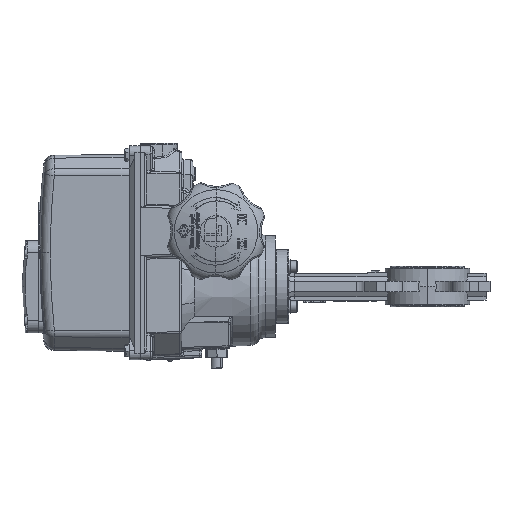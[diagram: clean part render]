
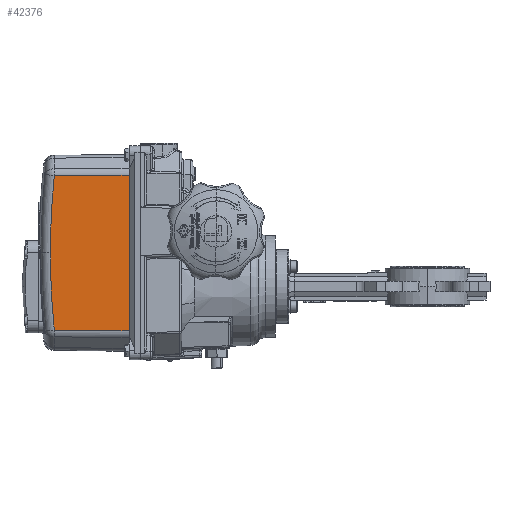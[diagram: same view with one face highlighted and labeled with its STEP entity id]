
A CAD part, left-side view. The second image highlights one B-rep face of the part: STEP entity #42376.
In plain terms, the highlighted planar face has unit normal (-1, 0.013, 0).
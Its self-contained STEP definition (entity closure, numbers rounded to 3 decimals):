
#262 = CARTESIAN_POINT ( 'NONE',  ( -65.589, -354.385, 29.913 ) ) ;
#362 = DIRECTION ( 'NONE',  ( 0.013, 1., -0.006 ) ) ;
#569 = DIRECTION ( 'NONE',  ( 0.013, 1., 0. ) ) ;
#716 = DIRECTION ( 'NONE',  ( 0.013, 1., 0. ) ) ;
#5031 = CARTESIAN_POINT ( 'NONE',  ( -56.342, 334.473, 29.913 ) ) ;
#11315 = EDGE_CURVE ( 'NONE', #50124, #67672, #35085, .T. ) ;
#11778 = EDGE_LOOP ( 'NONE', ( #30309, #92865, #113325, #85789, #56873 ) ) ;
#12193 = EDGE_CURVE ( 'NONE', #79461, #82977, #106015, .T. ) ;
#13436 = VERTEX_POINT ( 'NONE', #101161 ) ;
#16043 = LINE ( 'NONE', #91442, #101154 ) ;
#19584 = CARTESIAN_POINT ( 'NONE',  ( -57.279, 264.7, -41.573 ) ) ;
#22200 = AXIS2_PLACEMENT_3D ( 'NONE', #262, #71433, #53237 ) ;
#22668 = VECTOR ( 'NONE', #362, 1000. ) ;
#26901 = CARTESIAN_POINT ( 'NONE',  ( -57.411, 254.826, 98.912 ) ) ;
#28003 = CARTESIAN_POINT ( 'NONE',  ( -57.412, 254.734, -41.573 ) ) ;
#30309 = ORIENTED_EDGE ( 'NONE', *, *, #108735, .T. ) ;
#35085 = LINE ( 'NONE', #19584, #61453 ) ;
#36581 = DIRECTION ( 'NONE',  ( -1., 0.013, 0. ) ) ;
#42376 = ADVANCED_FACE ( 'NONE', ( #101312 ), #54068, .T. ) ;
#47937 = CARTESIAN_POINT ( 'NONE',  ( -57.279, 264.7, -39.032 ) ) ;
#50124 = VERTEX_POINT ( 'NONE', #47937 ) ;
#53237 = DIRECTION ( 'NONE',  ( 0.013, 1., 0. ) ) ;
#54068 = PLANE ( 'NONE',  #92635 ) ;
#55077 = CARTESIAN_POINT ( 'NONE',  ( -65.589, -354.385, 29.913 ) ) ;
#56491 = DIRECTION ( 'NONE',  ( 0., 0., 1. ) ) ;
#56873 = ORIENTED_EDGE ( 'NONE', *, *, #12193, .T. ) ;
#58773 = LINE ( 'NONE', #26901, #22668 ) ;
#61453 = VECTOR ( 'NONE', #56491, 1000. ) ;
#67672 = VERTEX_POINT ( 'NONE', #111890 ) ;
#71433 = DIRECTION ( 'NONE',  ( -1., 0.013, 0. ) ) ;
#79461 = VERTEX_POINT ( 'NONE', #5031 ) ;
#82977 = VERTEX_POINT ( 'NONE', #92907 ) ;
#85789 = ORIENTED_EDGE ( 'NONE', *, *, #100200, .T. ) ;
#88822 = AXIS2_PLACEMENT_3D ( 'NONE', #55077, #90102, #569 ) ;
#90102 = DIRECTION ( 'NONE',  ( -1., 0.013, 0. ) ) ;
#91442 = CARTESIAN_POINT ( 'NONE',  ( -57.413, 254.72, -39.088 ) ) ;
#91920 = CIRCLE ( 'NONE', #22200, 688.92 ) ;
#92635 = AXIS2_PLACEMENT_3D ( 'NONE', #28003, #36581, #716 ) ;
#92865 = ORIENTED_EDGE ( 'NONE', *, *, #11315, .T. ) ;
#92907 = CARTESIAN_POINT ( 'NONE',  ( -56.388, 331.051, -38.663 ) ) ;
#98199 = EDGE_CURVE ( 'NONE', #67672, #13436, #58773, .T. ) ;
#100200 = EDGE_CURVE ( 'NONE', #13436, #79461, #91920, .T. ) ;
#100774 = DIRECTION ( 'NONE',  ( -0.013, -1., -0.006 ) ) ;
#101154 = VECTOR ( 'NONE', #100774, 1000. ) ;
#101161 = CARTESIAN_POINT ( 'NONE',  ( -56.388, 331.051, 98.489 ) ) ;
#101312 = FACE_OUTER_BOUND ( 'NONE', #11778, .T. ) ;
#106015 = CIRCLE ( 'NONE', #88822, 688.92 ) ;
#108735 = EDGE_CURVE ( 'NONE', #82977, #50124, #16043, .T. ) ;
#111890 = CARTESIAN_POINT ( 'NONE',  ( -57.279, 264.7, 98.858 ) ) ;
#113325 = ORIENTED_EDGE ( 'NONE', *, *, #98199, .T. ) ;
